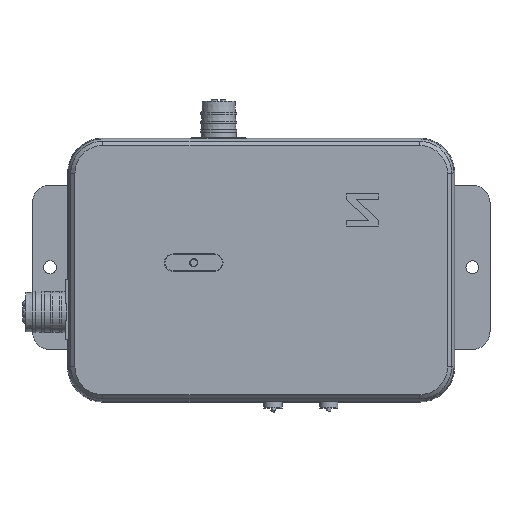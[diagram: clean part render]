
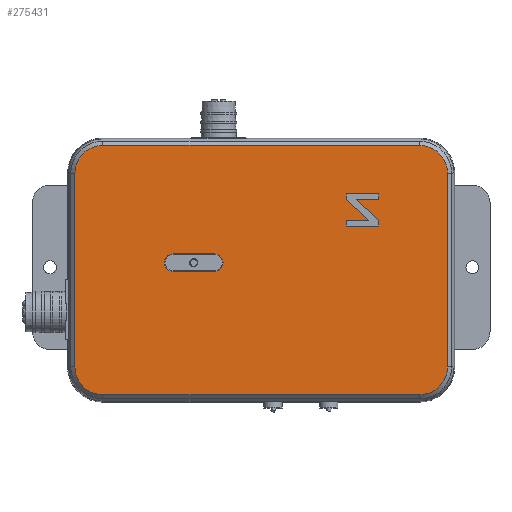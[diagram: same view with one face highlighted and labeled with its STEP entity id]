
A CAD part, top view. The second image highlights one B-rep face of the part: STEP entity #275431.
In plain terms, the highlighted planar face has unit normal (0, 0, 1).
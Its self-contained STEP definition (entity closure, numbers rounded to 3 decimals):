
#274793 = VERTEX_POINT('',#274794);
#274794 = CARTESIAN_POINT('',(-0.5,9.,33.6));
#274799 = EDGE_CURVE('',#274793,#274800,#274802,.T.);
#274800 = VERTEX_POINT('',#274801);
#274801 = CARTESIAN_POINT('',(9.,-0.5,33.6));
#274802 = CIRCLE('',#274803,9.5);
#274803 = AXIS2_PLACEMENT_3D('',#274804,#274805,#274806);
#274804 = CARTESIAN_POINT('',(9.,9.,33.6));
#274805 = DIRECTION('',(0.,0.,1.));
#274806 = DIRECTION('',(1.,0.,0.));
#275248 = VERTEX_POINT('',#275249);
#275249 = CARTESIAN_POINT('',(-0.5,75.,33.6));
#275254 = EDGE_CURVE('',#274793,#275248,#275255,.T.);
#275255 = LINE('',#275256,#275257);
#275256 = CARTESIAN_POINT('',(-0.5,9.,33.6));
#275257 = VECTOR('',#275258,1.);
#275258 = DIRECTION('',(0.,1.,0.));
#275431 = ADVANCED_FACE('',(#275432,#275485,#275521),#275603,.T.);
#275432 = FACE_BOUND('',#275433,.T.);
#275433 = EDGE_LOOP('',(#275434,#275435,#275443,#275452,#275460,#275469,
    #275477,#275484));
#275434 = ORIENTED_EDGE('',*,*,#274799,.T.);
#275435 = ORIENTED_EDGE('',*,*,#275436,.T.);
#275436 = EDGE_CURVE('',#274800,#275437,#275439,.T.);
#275437 = VERTEX_POINT('',#275438);
#275438 = CARTESIAN_POINT('',(117.,-0.5,33.6));
#275439 = LINE('',#275440,#275441);
#275440 = CARTESIAN_POINT('',(9.,-0.5,33.6));
#275441 = VECTOR('',#275442,1.);
#275442 = DIRECTION('',(1.,0.,0.));
#275443 = ORIENTED_EDGE('',*,*,#275444,.T.);
#275444 = EDGE_CURVE('',#275437,#275445,#275447,.T.);
#275445 = VERTEX_POINT('',#275446);
#275446 = CARTESIAN_POINT('',(126.5,9.,33.6));
#275447 = CIRCLE('',#275448,9.5);
#275448 = AXIS2_PLACEMENT_3D('',#275449,#275450,#275451);
#275449 = CARTESIAN_POINT('',(117.,9.,33.6));
#275450 = DIRECTION('',(0.,0.,1.));
#275451 = DIRECTION('',(1.,0.,0.));
#275452 = ORIENTED_EDGE('',*,*,#275453,.T.);
#275453 = EDGE_CURVE('',#275445,#275454,#275456,.T.);
#275454 = VERTEX_POINT('',#275455);
#275455 = CARTESIAN_POINT('',(126.5,75.,33.6));
#275456 = LINE('',#275457,#275458);
#275457 = CARTESIAN_POINT('',(126.5,9.,33.6));
#275458 = VECTOR('',#275459,1.);
#275459 = DIRECTION('',(0.,1.,0.));
#275460 = ORIENTED_EDGE('',*,*,#275461,.T.);
#275461 = EDGE_CURVE('',#275454,#275462,#275464,.T.);
#275462 = VERTEX_POINT('',#275463);
#275463 = CARTESIAN_POINT('',(117.,84.5,33.6));
#275464 = CIRCLE('',#275465,9.5);
#275465 = AXIS2_PLACEMENT_3D('',#275466,#275467,#275468);
#275466 = CARTESIAN_POINT('',(117.,75.,33.6));
#275467 = DIRECTION('',(0.,0.,1.));
#275468 = DIRECTION('',(1.,0.,0.));
#275469 = ORIENTED_EDGE('',*,*,#275470,.F.);
#275470 = EDGE_CURVE('',#275471,#275462,#275473,.T.);
#275471 = VERTEX_POINT('',#275472);
#275472 = CARTESIAN_POINT('',(9.,84.5,33.6));
#275473 = LINE('',#275474,#275475);
#275474 = CARTESIAN_POINT('',(9.,84.5,33.6));
#275475 = VECTOR('',#275476,1.);
#275476 = DIRECTION('',(1.,0.,0.));
#275477 = ORIENTED_EDGE('',*,*,#275478,.T.);
#275478 = EDGE_CURVE('',#275471,#275248,#275479,.T.);
#275479 = CIRCLE('',#275480,9.5);
#275480 = AXIS2_PLACEMENT_3D('',#275481,#275482,#275483);
#275481 = CARTESIAN_POINT('',(9.,75.,33.6));
#275482 = DIRECTION('',(0.,0.,1.));
#275483 = DIRECTION('',(1.,0.,0.));
#275484 = ORIENTED_EDGE('',*,*,#275254,.F.);
#275485 = FACE_BOUND('',#275486,.T.);
#275486 = EDGE_LOOP('',(#275487,#275498,#275506,#275515));
#275487 = ORIENTED_EDGE('',*,*,#275488,.F.);
#275488 = EDGE_CURVE('',#275489,#275491,#275493,.T.);
#275489 = VERTEX_POINT('',#275490);
#275490 = CARTESIAN_POINT('',(33.,47.5,33.6));
#275491 = VERTEX_POINT('',#275492);
#275492 = CARTESIAN_POINT('',(33.,41.5,33.6));
#275493 = CIRCLE('',#275494,3.);
#275494 = AXIS2_PLACEMENT_3D('',#275495,#275496,#275497);
#275495 = CARTESIAN_POINT('',(33.,44.5,33.6));
#275496 = DIRECTION('',(0.,0.,1.));
#275497 = DIRECTION('',(1.,0.,0.));
#275498 = ORIENTED_EDGE('',*,*,#275499,.F.);
#275499 = EDGE_CURVE('',#275500,#275489,#275502,.T.);
#275500 = VERTEX_POINT('',#275501);
#275501 = CARTESIAN_POINT('',(47.,47.5,33.6));
#275502 = LINE('',#275503,#275504);
#275503 = CARTESIAN_POINT('',(21.,47.5,33.6));
#275504 = VECTOR('',#275505,1.);
#275505 = DIRECTION('',(-1.,0.,0.));
#275506 = ORIENTED_EDGE('',*,*,#275507,.F.);
#275507 = EDGE_CURVE('',#275508,#275500,#275510,.T.);
#275508 = VERTEX_POINT('',#275509);
#275509 = CARTESIAN_POINT('',(47.,41.5,33.6));
#275510 = CIRCLE('',#275511,3.);
#275511 = AXIS2_PLACEMENT_3D('',#275512,#275513,#275514);
#275512 = CARTESIAN_POINT('',(47.,44.5,33.6));
#275513 = DIRECTION('',(0.,0.,1.));
#275514 = DIRECTION('',(1.,0.,0.));
#275515 = ORIENTED_EDGE('',*,*,#275516,.T.);
#275516 = EDGE_CURVE('',#275508,#275491,#275517,.T.);
#275517 = LINE('',#275518,#275519);
#275518 = CARTESIAN_POINT('',(21.,41.5,33.6));
#275519 = VECTOR('',#275520,1.);
#275520 = DIRECTION('',(-1.,0.,0.));
#275521 = FACE_BOUND('',#275522,.T.);
#275522 = EDGE_LOOP('',(#275523,#275533,#275541,#275549,#275557,#275565,
    #275573,#275581,#275589,#275597));
#275523 = ORIENTED_EDGE('',*,*,#275524,.T.);
#275524 = EDGE_CURVE('',#275525,#275527,#275529,.T.);
#275525 = VERTEX_POINT('',#275526);
#275526 = CARTESIAN_POINT('',(103.,59.,33.6));
#275527 = VERTEX_POINT('',#275528);
#275528 = CARTESIAN_POINT('',(103.,57.,33.6));
#275529 = LINE('',#275530,#275531);
#275530 = CARTESIAN_POINT('',(103.,33.,33.6));
#275531 = VECTOR('',#275532,1.);
#275532 = DIRECTION('',(0.,-1.,0.));
#275533 = ORIENTED_EDGE('',*,*,#275534,.T.);
#275534 = EDGE_CURVE('',#275527,#275535,#275537,.T.);
#275535 = VERTEX_POINT('',#275536);
#275536 = CARTESIAN_POINT('',(92.,57.,33.6));
#275537 = LINE('',#275538,#275539);
#275538 = CARTESIAN_POINT('',(50.5,57.,33.6));
#275539 = VECTOR('',#275540,1.);
#275540 = DIRECTION('',(-1.,0.,0.));
#275541 = ORIENTED_EDGE('',*,*,#275542,.T.);
#275542 = EDGE_CURVE('',#275535,#275543,#275545,.T.);
#275543 = VERTEX_POINT('',#275544);
#275544 = CARTESIAN_POINT('',(92.,59.,33.6));
#275545 = LINE('',#275546,#275547);
#275546 = CARTESIAN_POINT('',(92.,34.,33.6));
#275547 = VECTOR('',#275548,1.);
#275548 = DIRECTION('',(0.,1.,0.));
#275549 = ORIENTED_EDGE('',*,*,#275550,.T.);
#275550 = EDGE_CURVE('',#275543,#275551,#275553,.T.);
#275551 = VERTEX_POINT('',#275552);
#275552 = CARTESIAN_POINT('',(99.5,59.,33.6));
#275553 = LINE('',#275554,#275555);
#275554 = CARTESIAN_POINT('',(54.25,59.,33.6));
#275555 = VECTOR('',#275556,1.);
#275556 = DIRECTION('',(1.,0.,0.));
#275557 = ORIENTED_EDGE('',*,*,#275558,.T.);
#275558 = EDGE_CURVE('',#275551,#275559,#275561,.T.);
#275559 = VERTEX_POINT('',#275560);
#275560 = CARTESIAN_POINT('',(92.,66.,33.6));
#275561 = LINE('',#275562,#275563);
#275562 = CARTESIAN_POINT('',(84.037,73.432,33.6));
#275563 = VECTOR('',#275564,1.);
#275564 = DIRECTION('',(-0.731,0.682,0.));
#275565 = ORIENTED_EDGE('',*,*,#275566,.T.);
#275566 = EDGE_CURVE('',#275559,#275567,#275569,.T.);
#275567 = VERTEX_POINT('',#275568);
#275568 = CARTESIAN_POINT('',(92.,68.,33.6));
#275569 = LINE('',#275570,#275571);
#275570 = CARTESIAN_POINT('',(92.,38.5,33.6));
#275571 = VECTOR('',#275572,1.);
#275572 = DIRECTION('',(0.,1.,0.));
#275573 = ORIENTED_EDGE('',*,*,#275574,.T.);
#275574 = EDGE_CURVE('',#275567,#275575,#275577,.T.);
#275575 = VERTEX_POINT('',#275576);
#275576 = CARTESIAN_POINT('',(103.,68.,33.6));
#275577 = LINE('',#275578,#275579);
#275578 = CARTESIAN_POINT('',(56.,68.,33.6));
#275579 = VECTOR('',#275580,1.);
#275580 = DIRECTION('',(1.,0.,0.));
#275581 = ORIENTED_EDGE('',*,*,#275582,.T.);
#275582 = EDGE_CURVE('',#275575,#275583,#275585,.T.);
#275583 = VERTEX_POINT('',#275584);
#275584 = CARTESIAN_POINT('',(103.,66.,33.6));
#275585 = LINE('',#275586,#275587);
#275586 = CARTESIAN_POINT('',(103.,37.5,33.6));
#275587 = VECTOR('',#275588,1.);
#275588 = DIRECTION('',(0.,-1.,0.));
#275589 = ORIENTED_EDGE('',*,*,#275590,.T.);
#275590 = EDGE_CURVE('',#275583,#275591,#275593,.T.);
#275591 = VERTEX_POINT('',#275592);
#275592 = CARTESIAN_POINT('',(95.5,66.,33.6));
#275593 = LINE('',#275594,#275595);
#275594 = CARTESIAN_POINT('',(52.25,66.,33.6));
#275595 = VECTOR('',#275596,1.);
#275596 = DIRECTION('',(-1.,0.,0.));
#275597 = ORIENTED_EDGE('',*,*,#275598,.T.);
#275598 = EDGE_CURVE('',#275591,#275525,#275599,.T.);
#275599 = LINE('',#275600,#275601);
#275600 = CARTESIAN_POINT('',(90.352,70.805,33.6));
#275601 = VECTOR('',#275602,1.);
#275602 = DIRECTION('',(0.731,-0.682,0.));
#275603 = PLANE('',#275604);
#275604 = AXIS2_PLACEMENT_3D('',#275605,#275606,#275607);
#275605 = CARTESIAN_POINT('',(9.,9.,33.6));
#275606 = DIRECTION('',(0.,0.,1.));
#275607 = DIRECTION('',(1.,0.,0.));
